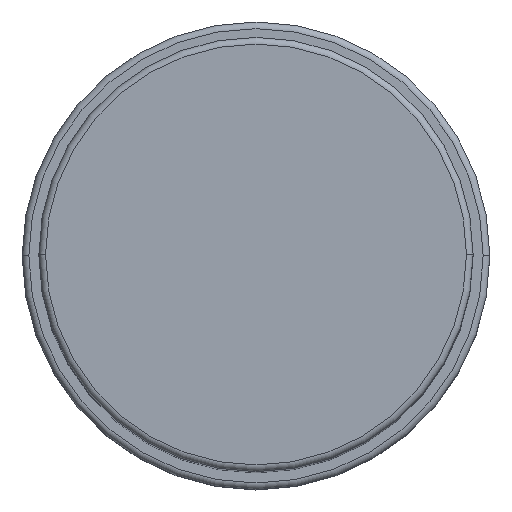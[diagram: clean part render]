
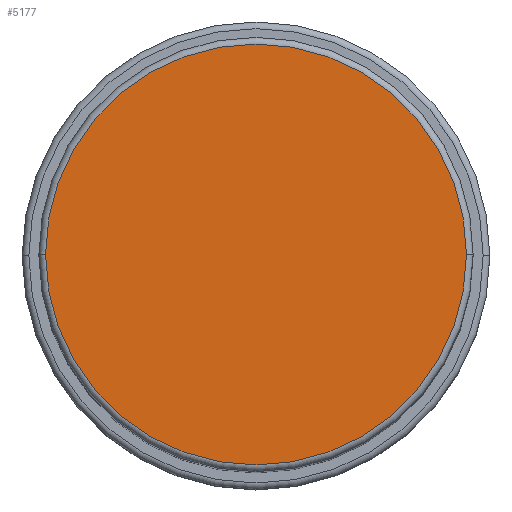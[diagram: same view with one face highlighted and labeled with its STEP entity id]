
A CAD part, top view. The second image highlights one B-rep face of the part: STEP entity #5177.
In plain terms, the highlighted planar face has unit normal (0, 0, 1).
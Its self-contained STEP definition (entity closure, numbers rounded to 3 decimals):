
#51 = CIRCLE ( 'NONE', #3055, 31.5 ) ;
#220 = CARTESIAN_POINT ( 'NONE',  ( 31.5, 0., 128. ) ) ;
#272 = CARTESIAN_POINT ( 'NONE',  ( 0., 0., 128. ) ) ;
#306 = CARTESIAN_POINT ( 'NONE',  ( -31.5, 0., 128. ) ) ;
#628 = CIRCLE ( 'NONE', #3766, 31.5 ) ;
#911 = VERTEX_POINT ( 'NONE', #220 ) ;
#1094 = DIRECTION ( 'NONE',  ( 0., 0., 1. ) ) ;
#2061 = CARTESIAN_POINT ( 'NONE',  ( 0., 0., 128. ) ) ;
#2177 = ORIENTED_EDGE ( 'NONE', *, *, #5274, .T. ) ;
#2229 = DIRECTION ( 'NONE',  ( 0., 0., 1. ) ) ;
#2622 = AXIS2_PLACEMENT_3D ( 'NONE', #4795, #2229, #5224 ) ;
#2747 = ORIENTED_EDGE ( 'NONE', *, *, #4275, .T. ) ;
#3055 = AXIS2_PLACEMENT_3D ( 'NONE', #2061, #3774, #4201 ) ;
#3551 = FACE_OUTER_BOUND ( 'NONE', #5377, .T. ) ;
#3766 = AXIS2_PLACEMENT_3D ( 'NONE', #272, #1094, #4440 ) ;
#3774 = DIRECTION ( 'NONE',  ( 0., 0., 1. ) ) ;
#4201 = DIRECTION ( 'NONE',  ( 1., 0., 0. ) ) ;
#4275 = EDGE_CURVE ( 'NONE', #4743, #911, #51, .T. ) ;
#4440 = DIRECTION ( 'NONE',  ( 1., 0., 0. ) ) ;
#4743 = VERTEX_POINT ( 'NONE', #306 ) ;
#4795 = CARTESIAN_POINT ( 'NONE',  ( 0., 0., 128. ) ) ;
#4814 = PLANE ( 'NONE',  #2622 ) ;
#5177 = ADVANCED_FACE ( 'NONE', ( #3551 ), #4814, .T. ) ;
#5224 = DIRECTION ( 'NONE',  ( 1., 0., 0. ) ) ;
#5274 = EDGE_CURVE ( 'NONE', #911, #4743, #628, .T. ) ;
#5377 = EDGE_LOOP ( 'NONE', ( #2177, #2747 ) ) ;
